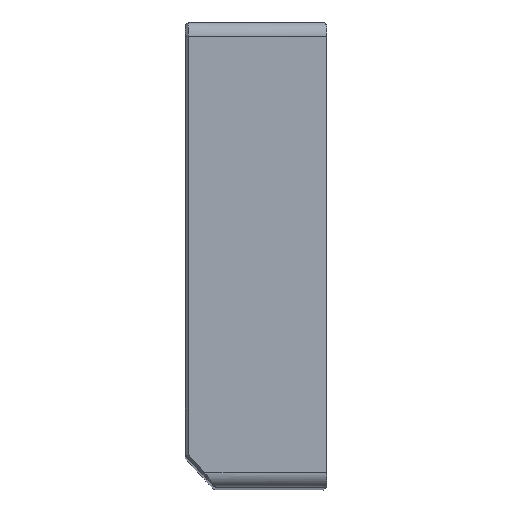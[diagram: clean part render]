
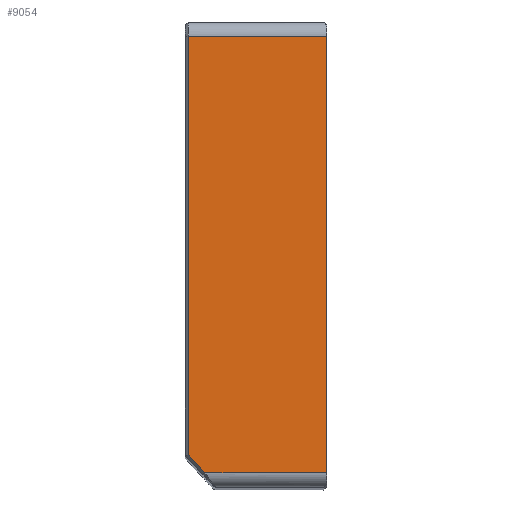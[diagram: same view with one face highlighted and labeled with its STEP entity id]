
A CAD part, top view. The second image highlights one B-rep face of the part: STEP entity #9054.
In plain terms, the highlighted planar face has unit normal (0, 0, 1).
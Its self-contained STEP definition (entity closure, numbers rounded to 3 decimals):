
#941=DIRECTION('',(0.,1.,0.));
#942=VECTOR('',#941,30.3);
#943=CARTESIAN_POINT('',(4.9,-16.4,114.));
#944=LINE('',#943,#942);
#1205=CARTESIAN_POINT('',(-3.548,-16.4,
114.));
#1207=DIRECTION('',(-0.681,0.732,0.));
#1208=VECTOR('',#1207,1.691);
#1209=CARTESIAN_POINT('',(-3.548,-16.4,
114.));
#1210=LINE('',#1209,#1208);
#1211=DIRECTION('',(0.,1.,0.));
#1212=VECTOR('',#1211,29.063);
#1213=CARTESIAN_POINT('',(-4.7,-15.163,114.));
#1214=LINE('',#1213,#1212);
#1215=DIRECTION('',(1.,0.,0.));
#1216=VECTOR('',#1215,9.6);
#1217=CARTESIAN_POINT('',(-4.7,13.9,114.));
#1218=LINE('',#1217,#1216);
#1219=DIRECTION('',(-1.,0.,0.));
#1220=VECTOR('',#1219,8.448);
#1221=CARTESIAN_POINT('',(4.9,-16.4,114.));
#1222=LINE('',#1221,#1220);
#7640=CARTESIAN_POINT('',(4.9,-16.4,114.));
#7642=VERTEX_POINT('',#7640);
#7647=CARTESIAN_POINT('',(4.9,13.9,114.));
#7648=VERTEX_POINT('',#7647);
#7741=VERTEX_POINT('',#1205);
#7742=CARTESIAN_POINT('',(-4.7,-15.163,114.));
#7743=VERTEX_POINT('',#7742);
#7750=CARTESIAN_POINT('',(-4.7,13.9,114.));
#7751=VERTEX_POINT('',#7750);
#9040=CARTESIAN_POINT('',(-4.9,24.75,114.));
#9041=DIRECTION('',(0.,0.,-1.));
#9042=DIRECTION('',(0.,-1.,0.));
#9043=AXIS2_PLACEMENT_3D('',#9040,#9041,#9042);
#9044=PLANE('',#9043);
#9046=ORIENTED_EDGE('',*,*,#9045,.T.);
#9048=ORIENTED_EDGE('',*,*,#9047,.T.);
#9049=ORIENTED_EDGE('',*,*,#8740,.T.);
#9050=ORIENTED_EDGE('',*,*,#8504,.F.);
#9051=ORIENTED_EDGE('',*,*,#9031,.T.);
#9052=EDGE_LOOP('',(#9046,#9048,#9049,#9050,#9051));
#9053=FACE_OUTER_BOUND('',#9052,.F.);
#9054=ADVANCED_FACE('',(#9053),#9044,.F.);
#8504=EDGE_CURVE('',#7642,#7648,#944,.T.);
#8740=EDGE_CURVE('',#7751,#7648,#1218,.T.);
#9031=EDGE_CURVE('',#7642,#7741,#1222,.T.);
#9045=EDGE_CURVE('',#7741,#7743,#1210,.T.);
#9047=EDGE_CURVE('',#7743,#7751,#1214,.T.);
